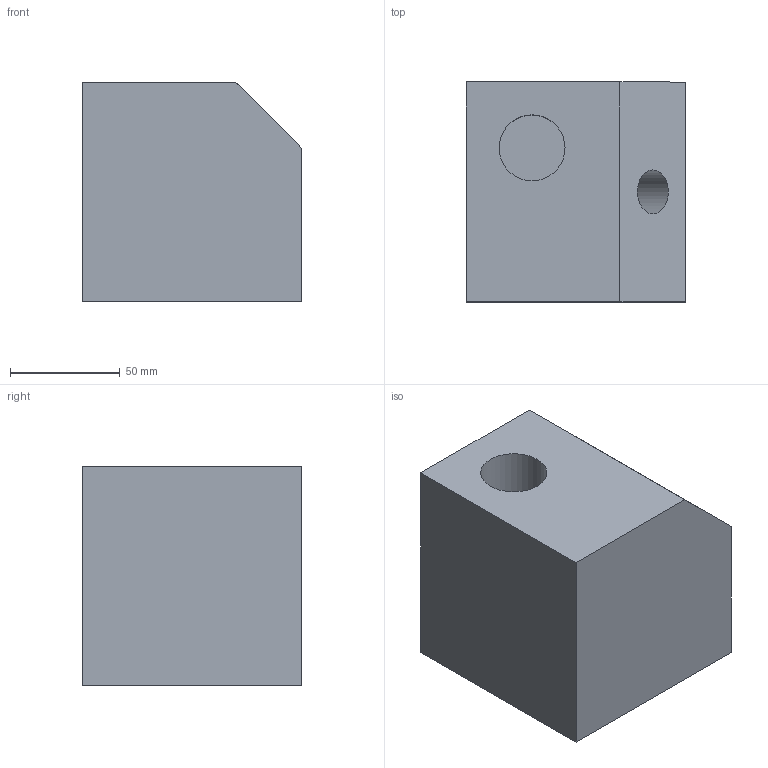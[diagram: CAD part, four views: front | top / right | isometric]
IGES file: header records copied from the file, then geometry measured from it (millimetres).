
Start section: Maximum GME point tolerance:  0.01 Minimum GME point tolerance:  0.01
Global section: file name: simple1.igs; native system: I-DEAS Master Series 6; preprocessor: IGES 5.3; author: NONE; organization: NONE; date: 990308.082721; units: millimetre
Bounding box: 100 x 100 x 100 mm (x, y, z)
Surface area: 63311.7 mm2 (no closed solid volume)
Topology: 0 solids, 0 shells, 11 faces, 42 edges, 38 vertices
Faces by surface type: plane 9, extrusion 2
